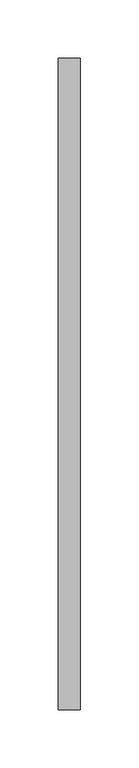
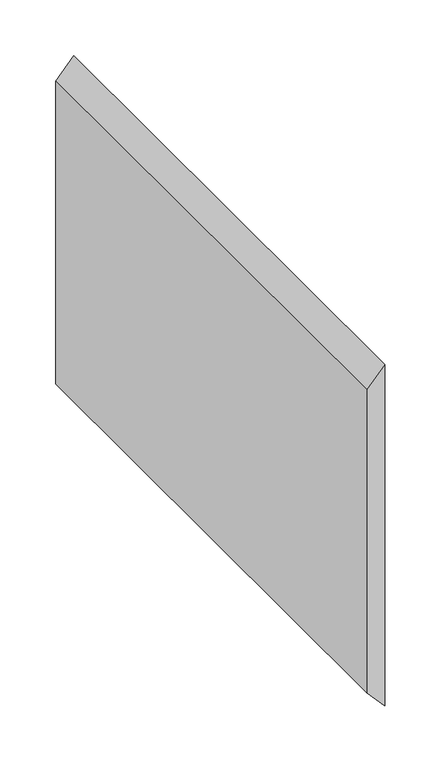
"""IFC4 building model written with IfcOpenShell, lengths in millimetres: proxy geometry, CAMBRIDGE^TABLE 1_60 ROUND-SIDE PARTITION."""

from ifc_helpers import new_model, si_unit, point, frame, origin, origin_2d, place, context, project, spatial, polyline, circle_curve, trimmed, segment, composite_curve, outline, extrude, source, transform, mapped, element, save


def generic_models_4e563e0e(model_context):
    return source(origin(), model_context, "Body", "SweptSolid", [
        extrude(outline(composite_curve([segment(polyline([(-187.4628465, -187.4628465), (187.4628465, -187.4628465)]), True, "CONTINUOUS"), segment(trimmed(circle_curve(origin_2d(), 265.1125), [point((187.4628465, -187.4628465))], [point((166.2440431, -206.5128465))], False, "CARTESIAN"), True, "CONTINUOUS"), segment(polyline([(166.2440431, -206.5128465), (-166.2440431, -206.5128465)]), True, "CONTINUOUS"), segment(trimmed(circle_curve(origin_2d(), 265.1125), [point((-166.2440431, -206.5128465))], [point((-187.4628465, -187.4628465))], False, "CARTESIAN"), True, "CONTINUOUS")], self_intersect=False)), frame((0.0, -596.9, 0.0), z_axis=(0.0, 1.0, 0.0), x_axis=(0.0, 0.0, 1.0)), (0.0, 0.0, 1.0), 558.8),
    ])


if __name__ == "__main__":
    model = new_model("IFC4")
    model_context = context("Model", 3, world=origin())
    ifc_project = project(units=[si_unit("LENGTHUNIT", "METRE", prefix="MILLI")], contexts=[model_context])
    site = spatial("IfcSite", under=ifc_project)
    building = spatial("IfcBuilding", under=site)
    placement = place(None, origin())
    generic_models_shape = generic_models_4e563e0e(model_context)
    element("IfcBuildingElementProxy", 1, Name="CAMBRIDGE^TABLE 1_60 ROUND-SIDE PARTITION", ObjectType="CAMBRIDGE^TABLE 1_60 ROUND-SIDE PARTITION", at=placement, inside=building, context=model_context, shape_type="MappedRepresentation", body=[
        mapped(generic_models_shape, transform((0.0, 0.0, 0.0), x_axis=(1.0, 0.0, 0.0), y_axis=(0.0, 1.0, 0.0), z_axis=(0.0, 0.0, 1.0))),
    ])
    save(model, "model.ifc")
